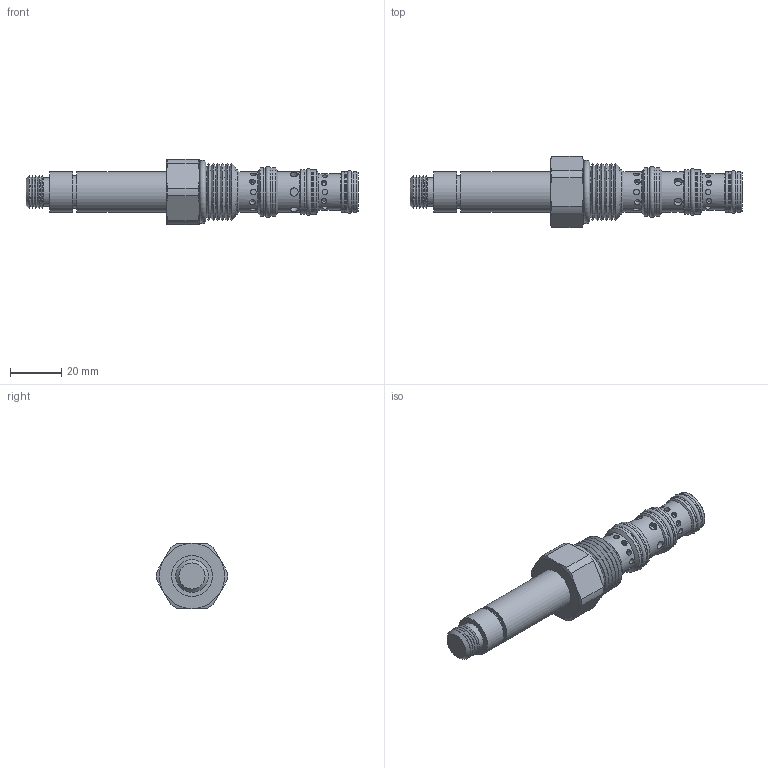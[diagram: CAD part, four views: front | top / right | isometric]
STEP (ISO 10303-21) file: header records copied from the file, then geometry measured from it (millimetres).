
FILE_DESCRIPTION(/* description */ (''),/* implementation_level */ '2;1');
FILE_NAME(/* name */ 'Q:\Delta CADD Insertion Codes\3D Solid models\Solenoid Valves\DWG\HDGS4E00.stp',/* time_stamp */ '2023-01-04T10:31:07-06:00',/* author */ ('Dan'),/* organization */ (''),/* preprocessor_version */ 'ST-DEVELOPER v17',/* originating_system */ 'Autodesk Inventor 2019',/* authorisation */ '');
FILE_SCHEMA (('AUTOMOTIVE_DESIGN { 1 0 10303 214 3 1 1 }'));
Length unit declared in the file: inch
Products named in the file (1): HDGS4E00
Bounding box: 129.37 x 27.74 x 25.4 mm (x, y, z)
Volume: 31667.3 mm3; surface area: 12274.3 mm2
Topology: 11 solids, 11 shells, 175 faces, 428 edges, 306 vertices
Faces by surface type: cylinder 66, plane 62, cone 41, torus 6
Full cylindrical faces by diameter (mm): 2.184 x24, 3.175 x6, 11.176 x1, 12.827 x1, 12.992 x1, 13.043 x2, 14.275 x1, 14.592 x1, 14.63 x2, 15.735 x2, 15.773 x2, 15.85 x1, 15.875 x3, 16.167 x1, 16.218 x2, 17.323 x3, 17.374 x2, 18.91 x2, 18.948 x2, 19.624 x1
Entity records: 6299 total; most frequent: CARTESIAN_POINT 1981, DIRECTION 930, ORIENTED_EDGE 856, EDGE_CURVE 428, AXIS2_PLACEMENT_3D 413, VERTEX_POINT 306, CIRCLE 237, EDGE_LOOP 226
